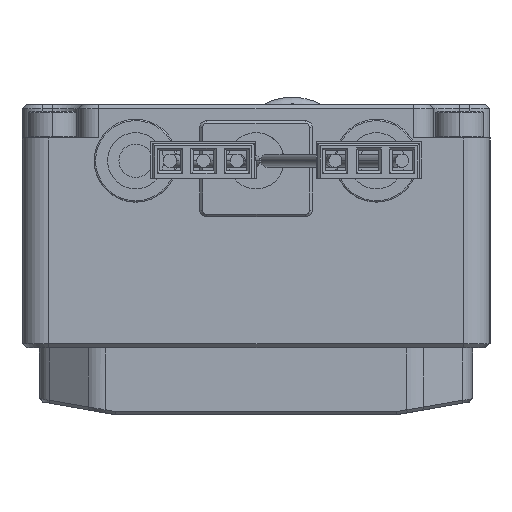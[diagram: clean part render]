
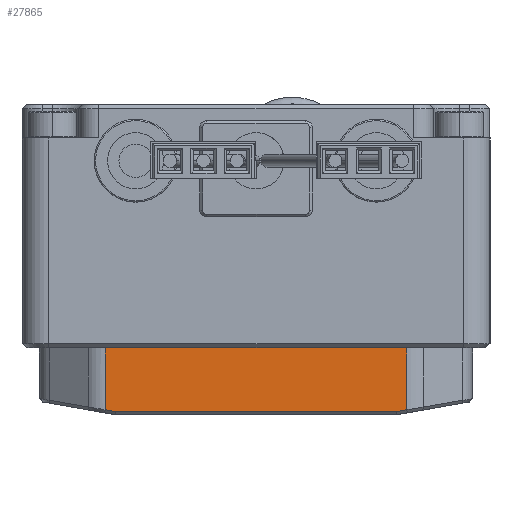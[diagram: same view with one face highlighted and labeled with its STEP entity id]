
A CAD part, left-side view. The second image highlights one B-rep face of the part: STEP entity #27865.
In plain terms, the highlighted planar face has unit normal (-1, 0, 0).
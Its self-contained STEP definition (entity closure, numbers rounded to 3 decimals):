
#972=DIRECTION('',(0.,1.,0.));
#973=VECTOR('',#972,22.552);
#974=CARTESIAN_POINT('',(-83.7,-11.276,-8.55));
#975=LINE('',#974,#973);
#4078=CARTESIAN_POINT('',(-83.7,11.276,-13.172));
#4219=DIRECTION('',(0.,1.,0.));
#4220=VECTOR('',#4219,20.959);
#4221=CARTESIAN_POINT('',(-83.7,-10.479,-13.312));
#4222=LINE('',#4221,#4220);
#4223=DIRECTION('',(0.,-0.985,-0.173));
#4224=VECTOR('',#4223,0.809);
#4225=CARTESIAN_POINT('',(-83.7,11.276,-13.172));
#4226=LINE('',#4225,#4224);
#4227=DIRECTION('',(0.,0.,-1.));
#4228=VECTOR('',#4227,4.622);
#4229=CARTESIAN_POINT('',(-83.7,11.276,-8.55));
#4230=LINE('',#4229,#4228);
#4231=DIRECTION('',(0.,0.,1.));
#4232=VECTOR('',#4231,4.622);
#4233=CARTESIAN_POINT('',(-83.7,-11.276,-13.172));
#4234=LINE('',#4233,#4232);
#4235=DIRECTION('',(0.,-0.985,0.173));
#4236=VECTOR('',#4235,0.809);
#4237=CARTESIAN_POINT('',(-83.7,-10.479,-13.312));
#4238=LINE('',#4237,#4236);
#4239=CARTESIAN_POINT('',(-83.7,-11.276,-13.172));
#16455=CARTESIAN_POINT('',(-83.7,-11.276,-8.55));
#16456=CARTESIAN_POINT('',(-83.7,11.276,-8.55));
#16457=VERTEX_POINT('',#16455);
#16458=VERTEX_POINT('',#16456);
#16483=CARTESIAN_POINT('',(-83.7,-10.479,-13.312));
#16484=CARTESIAN_POINT('',(-83.7,10.479,-13.312));
#16485=VERTEX_POINT('',#16483);
#16486=VERTEX_POINT('',#16484);
#16505=VERTEX_POINT('',#4078);
#16537=VERTEX_POINT('',#4239);
#27850=CARTESIAN_POINT('',(-83.7,-16.2,-8.55));
#27851=DIRECTION('',(-1.,0.,0.));
#27852=DIRECTION('',(0.,1.,0.));
#27853=AXIS2_PLACEMENT_3D('',#27850,#27851,#27852);
#27854=PLANE('',#27853);
#27855=ORIENTED_EDGE('',*,*,#27831,.T.);
#27856=ORIENTED_EDGE('',*,*,#27722,.F.);
#27857=ORIENTED_EDGE('',*,*,#27653,.F.);
#27858=ORIENTED_EDGE('',*,*,#20651,.F.);
#27860=ORIENTED_EDGE('',*,*,#27859,.F.);
#27862=ORIENTED_EDGE('',*,*,#27861,.F.);
#27863=EDGE_LOOP('',(#27855,#27856,#27857,#27858,#27860,#27862));
#27864=FACE_OUTER_BOUND('',#27863,.F.);
#27865=ADVANCED_FACE('',(#27864),#27854,.T.);
#20651=EDGE_CURVE('',#16457,#16458,#975,.T.);
#27653=EDGE_CURVE('',#16458,#16505,#4230,.T.);
#27722=EDGE_CURVE('',#16505,#16486,#4226,.T.);
#27831=EDGE_CURVE('',#16485,#16486,#4222,.T.);
#27859=EDGE_CURVE('',#16537,#16457,#4234,.T.);
#27861=EDGE_CURVE('',#16485,#16537,#4238,.T.);
